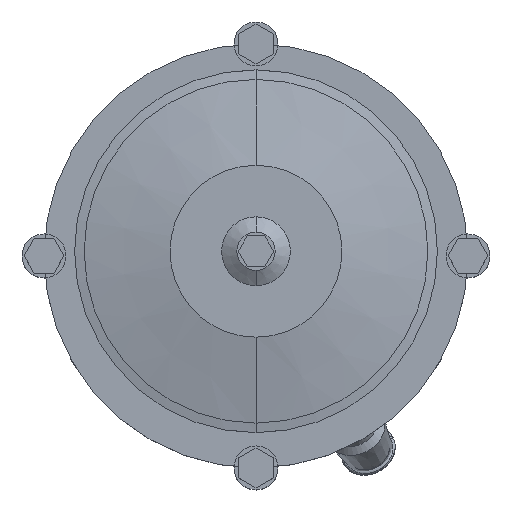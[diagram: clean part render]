
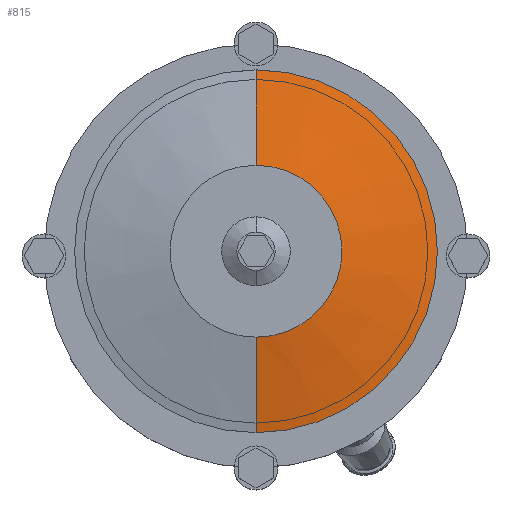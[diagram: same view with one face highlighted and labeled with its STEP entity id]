
A CAD part, top view. The second image highlights one B-rep face of the part: STEP entity #815.
In plain terms, the highlighted conical face has half-angle 78.69 degrees and reference radius 70 mm.
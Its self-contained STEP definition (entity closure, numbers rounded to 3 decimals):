
#815=ADVANCED_FACE('',(#1510),#1511,.T.);
#1510=FACE_OUTER_BOUND('',#2352,.T.);
#1511=CONICAL_SURFACE('',#2353,70.0,1.373);
#2352=EDGE_LOOP('',(#3463,#3464,#3465,#3466));
#2353=AXIS2_PLACEMENT_3D('',#3467,#3468,#3469);
#3463=ORIENTED_EDGE('',*,*,#4620,.F.);
#3464=ORIENTED_EDGE('',*,*,#4621,.F.);
#3465=ORIENTED_EDGE('',*,*,#4622,.F.);
#3466=ORIENTED_EDGE('',*,*,#4623,.F.);
#3467=CARTESIAN_POINT('',(0.0,0.,1535.0));
#3468=DIRECTION('',(-0.0,0.,-1.0));
#3469=DIRECTION('',(0.0,-1.0,0.));
#4620=EDGE_CURVE('',#5433,#5434,#5435,.T.);
#4621=EDGE_CURVE('',#5436,#5433,#5437,.T.);
#4622=EDGE_CURVE('',#5438,#5436,#5439,.T.);
#4623=EDGE_CURVE('',#5434,#5438,#5440,.T.);
#5433=VERTEX_POINT('',#6450);
#5434=VERTEX_POINT('',#6451);
#5435=LINE('',#6452,#6453);
#5436=VERTEX_POINT('',#6454);
#5437=CIRCLE('',#6455,95.0);
#5438=VERTEX_POINT('',#6456);
#5439=LINE('',#6457,#6458);
#5440=CIRCLE('',#6459,45.0);
#6450=CARTESIAN_POINT('',(0.0,-95.0,1530.0));
#6451=CARTESIAN_POINT('',(0.0,-45.0,1540.0));
#6452=CARTESIAN_POINT('',(0.,-70.0,1535.0));
#6453=VECTOR('',#7231,1.0);
#6454=CARTESIAN_POINT('',(0.,95.0,1530.0));
#6455=AXIS2_PLACEMENT_3D('',#7232,#7233,#7234);
#6456=CARTESIAN_POINT('',(0.,45.0,1540.0));
#6457=CARTESIAN_POINT('',(0.,70.0,1535.0));
#6458=VECTOR('',#7235,1.0);
#6459=AXIS2_PLACEMENT_3D('',#7236,#7237,#7238);
#7231=DIRECTION('',(0.,0.981,0.196));
#7232=CARTESIAN_POINT('',(0.0,0.0,1530.0));
#7233=DIRECTION('',(0.0,0.,-1.0));
#7234=DIRECTION('',(0.0,-1.0,0.));
#7235=DIRECTION('',(0.,0.981,-0.196));
#7236=CARTESIAN_POINT('',(0.0,0.,1540.0));
#7237=DIRECTION('',(0.0,0.,1.0));
#7238=DIRECTION('',(0.0,-1.0,0.));
